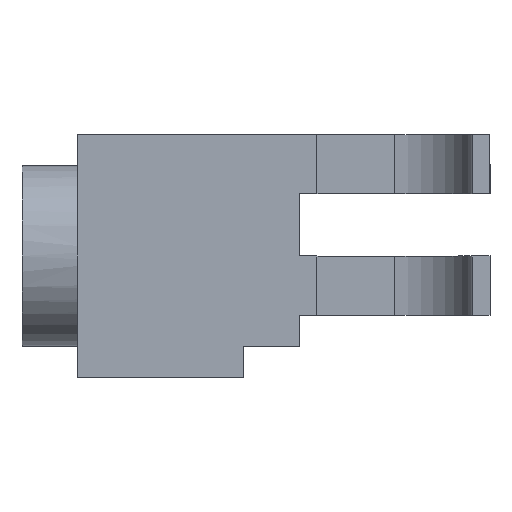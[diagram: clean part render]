
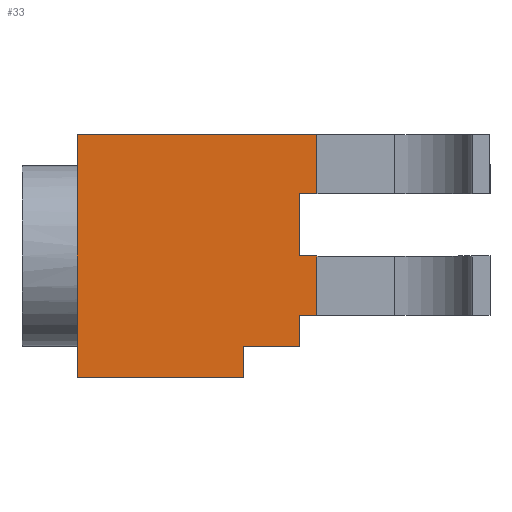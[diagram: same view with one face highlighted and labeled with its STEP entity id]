
A CAD part, front view. The second image highlights one B-rep face of the part: STEP entity #33.
In plain terms, the highlighted planar face has unit normal (0, -1, 0).
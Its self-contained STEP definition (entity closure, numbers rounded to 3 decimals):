
#4 = VECTOR ( 'NONE', #471, 1000. ) ;
#12 = CARTESIAN_POINT ( 'NONE',  ( -14., -15., -21.9 ) ) ;
#13 = CARTESIAN_POINT ( 'NONE',  ( -14., -15., 11.2 ) ) ;
#33 = ADVANCED_FACE ( 'NONE', ( #437 ), #1394, .T. ) ;
#44 = CARTESIAN_POINT ( 'NONE',  ( -17.2, -15., 0. ) ) ;
#56 = VECTOR ( 'NONE', #668, 1000. ) ;
#58 = CARTESIAN_POINT ( 'NONE',  ( -27.2, -15., -21.9 ) ) ;
#77 = VERTEX_POINT ( 'NONE', #58 ) ;
#84 = CARTESIAN_POINT ( 'NONE',  ( -57.2, -15., 21.9 ) ) ;
#101 = DIRECTION ( 'NONE',  ( 0., 0., 1. ) ) ;
#121 = VERTEX_POINT ( 'NONE', #889 ) ;
#127 = AXIS2_PLACEMENT_3D ( 'NONE', #200, #164, #759 ) ;
#141 = EDGE_CURVE ( 'NONE', #833, #932, #189, .T. ) ;
#154 = LINE ( 'NONE', #880, #1353 ) ;
#164 = DIRECTION ( 'NONE',  ( 0., -1., 0. ) ) ;
#188 = CARTESIAN_POINT ( 'NONE',  ( -57.2, -15., -21.9 ) ) ;
#189 = LINE ( 'NONE', #872, #1153 ) ;
#196 = CARTESIAN_POINT ( 'NONE',  ( -27.2, -15., -16.3 ) ) ;
#200 = CARTESIAN_POINT ( 'NONE',  ( -17.2, -15., -21.9 ) ) ;
#238 = EDGE_CURVE ( 'NONE', #77, #1382, #571, .T. ) ;
#315 = LINE ( 'NONE', #1397, #1078 ) ;
#322 = DIRECTION ( 'NONE',  ( 0., 0., 1. ) ) ;
#332 = EDGE_CURVE ( 'NONE', #1067, #411, #1444, .T. ) ;
#363 = ORIENTED_EDGE ( 'NONE', *, *, #990, .T. ) ;
#411 = VERTEX_POINT ( 'NONE', #1204 ) ;
#431 = VECTOR ( 'NONE', #634, 1000. ) ;
#437 = FACE_OUTER_BOUND ( 'NONE', #920, .T. ) ;
#445 = EDGE_CURVE ( 'NONE', #1049, #543, #154, .T. ) ;
#451 = VERTEX_POINT ( 'NONE', #44 ) ;
#470 = CARTESIAN_POINT ( 'NONE',  ( -14., -15., -10.7 ) ) ;
#471 = DIRECTION ( 'NONE',  ( -1., 0., 0. ) ) ;
#476 = LINE ( 'NONE', #957, #1279 ) ;
#526 = VECTOR ( 'NONE', #1508, 1000. ) ;
#537 = CARTESIAN_POINT ( 'NONE',  ( -27.2, -15., -16.3 ) ) ;
#543 = VERTEX_POINT ( 'NONE', #1032 ) ;
#567 = LINE ( 'NONE', #1530, #578 ) ;
#571 = LINE ( 'NONE', #1294, #577 ) ;
#577 = VECTOR ( 'NONE', #101, 1000. ) ;
#578 = VECTOR ( 'NONE', #1014, 1000. ) ;
#611 = LINE ( 'NONE', #1253, #431 ) ;
#622 = EDGE_CURVE ( 'NONE', #451, #121, #567, .T. ) ;
#632 = DIRECTION ( 'NONE',  ( -1., 0., 0. ) ) ;
#634 = DIRECTION ( 'NONE',  ( 1., 0., 0. ) ) ;
#668 = DIRECTION ( 'NONE',  ( 0., 0., 1. ) ) ;
#727 = ORIENTED_EDGE ( 'NONE', *, *, #141, .F. ) ;
#728 = DIRECTION ( 'NONE',  ( 0., 0., 1. ) ) ;
#735 = EDGE_CURVE ( 'NONE', #1200, #451, #936, .T. ) ;
#759 = DIRECTION ( 'NONE',  ( 1., 0., 0. ) ) ;
#768 = VECTOR ( 'NONE', #728, 1000. ) ;
#778 = ORIENTED_EDGE ( 'NONE', *, *, #445, .F. ) ;
#779 = EDGE_CURVE ( 'NONE', #833, #77, #611, .T. ) ;
#833 = VERTEX_POINT ( 'NONE', #188 ) ;
#847 = CARTESIAN_POINT ( 'NONE',  ( -14., -15., 0. ) ) ;
#858 = ORIENTED_EDGE ( 'NONE', *, *, #779, .T. ) ;
#872 = CARTESIAN_POINT ( 'NONE',  ( -57.2, -15., -21.9 ) ) ;
#880 = CARTESIAN_POINT ( 'NONE',  ( 51.292, -15., -10.7 ) ) ;
#889 = CARTESIAN_POINT ( 'NONE',  ( -17.2, -15., 11.2 ) ) ;
#919 = ORIENTED_EDGE ( 'NONE', *, *, #965, .T. ) ;
#920 = EDGE_LOOP ( 'NONE', ( #1246, #1321, #363, #778, #919, #1258, #1107, #1443, #1341, #1474, #727, #858 ) ) ;
#928 = CARTESIAN_POINT ( 'NONE',  ( 51.292, -15., 0. ) ) ;
#932 = VERTEX_POINT ( 'NONE', #84 ) ;
#936 = LINE ( 'NONE', #928, #4 ) ;
#957 = CARTESIAN_POINT ( 'NONE',  ( 51.292, -15., 11.2 ) ) ;
#958 = EDGE_CURVE ( 'NONE', #932, #411, #315, .T. ) ;
#965 = EDGE_CURVE ( 'NONE', #1049, #1200, #1044, .T. ) ;
#970 = EDGE_CURVE ( 'NONE', #1382, #1220, #1161, .T. ) ;
#990 = EDGE_CURVE ( 'NONE', #1220, #543, #1519, .T. ) ;
#1014 = DIRECTION ( 'NONE',  ( 0., 0., 1. ) ) ;
#1026 = DIRECTION ( 'NONE',  ( 1., 0., 0. ) ) ;
#1032 = CARTESIAN_POINT ( 'NONE',  ( -17.2, -15., -10.7 ) ) ;
#1044 = LINE ( 'NONE', #1268, #56 ) ;
#1049 = VERTEX_POINT ( 'NONE', #470 ) ;
#1067 = VERTEX_POINT ( 'NONE', #13 ) ;
#1078 = VECTOR ( 'NONE', #1026, 1000. ) ;
#1107 = ORIENTED_EDGE ( 'NONE', *, *, #622, .T. ) ;
#1124 = EDGE_CURVE ( 'NONE', #1067, #121, #476, .T. ) ;
#1153 = VECTOR ( 'NONE', #1355, 1000. ) ;
#1161 = LINE ( 'NONE', #196, #526 ) ;
#1200 = VERTEX_POINT ( 'NONE', #847 ) ;
#1204 = CARTESIAN_POINT ( 'NONE',  ( -14., -15., 21.9 ) ) ;
#1220 = VERTEX_POINT ( 'NONE', #1332 ) ;
#1246 = ORIENTED_EDGE ( 'NONE', *, *, #238, .T. ) ;
#1253 = CARTESIAN_POINT ( 'NONE',  ( -17.2, -15., -21.9 ) ) ;
#1258 = ORIENTED_EDGE ( 'NONE', *, *, #735, .T. ) ;
#1268 = CARTESIAN_POINT ( 'NONE',  ( -14., -15., -21.9 ) ) ;
#1279 = VECTOR ( 'NONE', #1437, 1000. ) ;
#1294 = CARTESIAN_POINT ( 'NONE',  ( -27.2, -15., -21.9 ) ) ;
#1321 = ORIENTED_EDGE ( 'NONE', *, *, #970, .T. ) ;
#1332 = CARTESIAN_POINT ( 'NONE',  ( -17.2, -15., -16.3 ) ) ;
#1341 = ORIENTED_EDGE ( 'NONE', *, *, #332, .T. ) ;
#1353 = VECTOR ( 'NONE', #632, 1000. ) ;
#1355 = DIRECTION ( 'NONE',  ( 0., 0., 1. ) ) ;
#1382 = VERTEX_POINT ( 'NONE', #537 ) ;
#1394 = PLANE ( 'NONE',  #127 ) ;
#1397 = CARTESIAN_POINT ( 'NONE',  ( -17.2, -15., 21.9 ) ) ;
#1409 = VECTOR ( 'NONE', #322, 1000. ) ;
#1437 = DIRECTION ( 'NONE',  ( -1., 0., 0. ) ) ;
#1443 = ORIENTED_EDGE ( 'NONE', *, *, #1124, .F. ) ;
#1444 = LINE ( 'NONE', #12, #768 ) ;
#1474 = ORIENTED_EDGE ( 'NONE', *, *, #958, .F. ) ;
#1508 = DIRECTION ( 'NONE',  ( 1., 0., 0. ) ) ;
#1519 = LINE ( 'NONE', #1526, #1409 ) ;
#1526 = CARTESIAN_POINT ( 'NONE',  ( -17.2, -15., -21.9 ) ) ;
#1530 = CARTESIAN_POINT ( 'NONE',  ( -17.2, -15., 0. ) ) ;
